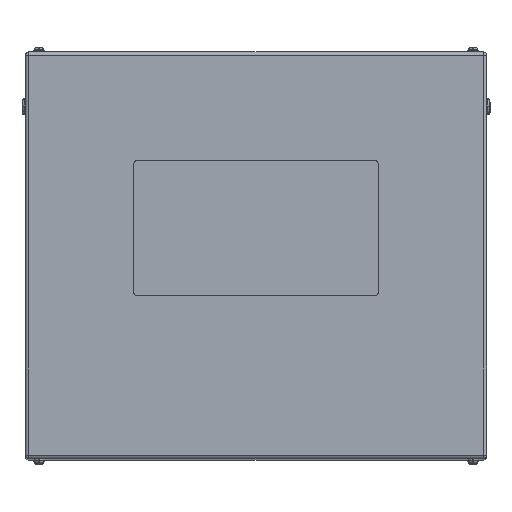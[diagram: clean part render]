
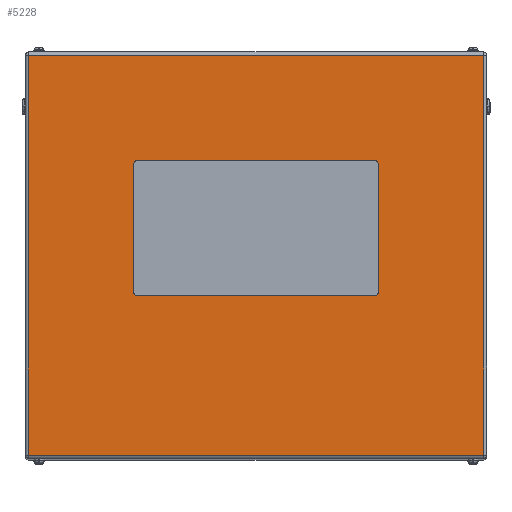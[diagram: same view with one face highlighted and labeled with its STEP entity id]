
A CAD part, top view. The second image highlights one B-rep face of the part: STEP entity #5228.
In plain terms, the highlighted planar face has unit normal (0, 0, 1).
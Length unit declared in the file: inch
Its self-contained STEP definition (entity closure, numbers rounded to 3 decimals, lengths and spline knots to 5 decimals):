
#295 = CARTESIAN_POINT ( 'NONE',  ( -16.8, 15., 30. ) ) ;
#328 = VERTEX_POINT ( 'NONE', #15952 ) ;
#602 = ORIENTED_EDGE ( 'NONE', *, *, #14239, .T. ) ;
#777 = VECTOR ( 'NONE', #4884, 39.37008 ) ;
#784 = CARTESIAN_POINT ( 'NONE',  ( -9., -2.75, 30. ) ) ;
#1256 = CARTESIAN_POINT ( 'NONE',  ( 8.75, -2.75, 30. ) ) ;
#1282 = CARTESIAN_POINT ( 'NONE',  ( 16.8, 14.734, 30. ) ) ;
#1363 = VECTOR ( 'NONE', #8467, 39.37008 ) ;
#1404 = VERTEX_POINT ( 'NONE', #11479 ) ;
#1414 = CARTESIAN_POINT ( 'NONE',  ( 17., 14.734, 30. ) ) ;
#1515 = DIRECTION ( 'NONE',  ( -1., 0., 0. ) ) ;
#1995 = EDGE_CURVE ( 'NONE', #15979, #4943, #15452, .T. ) ;
#2005 = DIRECTION ( 'NONE',  ( 0., -1., 0. ) ) ;
#2015 = LINE ( 'NONE', #17191, #1363 ) ;
#2111 = LINE ( 'NONE', #295, #6206 ) ;
#2765 = LINE ( 'NONE', #13784, #11850 ) ;
#2818 = CARTESIAN_POINT ( 'NONE',  ( -8.75, 6.75, 30. ) ) ;
#2873 = VERTEX_POINT ( 'NONE', #12969 ) ;
#3193 = CIRCLE ( 'NONE', #20078, 0.25 ) ;
#3551 = CARTESIAN_POINT ( 'NONE',  ( -8.75, -3., 30. ) ) ;
#4075 = CARTESIAN_POINT ( 'NONE',  ( 16.8, -14.734, 30. ) ) ;
#4129 = CIRCLE ( 'NONE', #18274, 0.25 ) ;
#4137 = CARTESIAN_POINT ( 'NONE',  ( -9., 6.75, 30. ) ) ;
#4253 = DIRECTION ( 'NONE',  ( 0., 0., 1. ) ) ;
#4749 = DIRECTION ( 'NONE',  ( 0., 0., 1. ) ) ;
#4884 = DIRECTION ( 'NONE',  ( 0., 1., 0. ) ) ;
#4943 = VERTEX_POINT ( 'NONE', #784 ) ;
#5041 = VERTEX_POINT ( 'NONE', #4075 ) ;
#5059 = VECTOR ( 'NONE', #7377, 39.37008 ) ;
#5228 = ADVANCED_FACE ( 'NONE', ( #10412, #18319 ), #8477, .F. ) ;
#5963 = CIRCLE ( 'NONE', #19064, 0.25 ) ;
#6206 = VECTOR ( 'NONE', #2005, 39.37008 ) ;
#6305 = DIRECTION ( 'NONE',  ( 1., 0., 0. ) ) ;
#6409 = CARTESIAN_POINT ( 'NONE',  ( 16.8, -14.734, 30. ) ) ;
#6540 = VECTOR ( 'NONE', #6305, 39.37008 ) ;
#6654 = EDGE_LOOP ( 'NONE', ( #602, #16974, #18216, #17483 ) ) ;
#6821 = ORIENTED_EDGE ( 'NONE', *, *, #8346, .F. ) ;
#6964 = ORIENTED_EDGE ( 'NONE', *, *, #1995, .F. ) ;
#6986 = DIRECTION ( 'NONE',  ( -1., 0., 0. ) ) ;
#7266 = CARTESIAN_POINT ( 'NONE',  ( -9., 6.75, 30. ) ) ;
#7377 = DIRECTION ( 'NONE',  ( 0., -1., 0. ) ) ;
#7404 = DIRECTION ( 'NONE',  ( 0., 0., 1. ) ) ;
#7588 = EDGE_CURVE ( 'NONE', #20206, #2873, #9361, .T. ) ;
#8122 = LINE ( 'NONE', #6409, #6540 ) ;
#8346 = EDGE_CURVE ( 'NONE', #4943, #18430, #3193, .T. ) ;
#8402 = EDGE_CURVE ( 'NONE', #14387, #15979, #5963, .T. ) ;
#8467 = DIRECTION ( 'NONE',  ( 1., 0., 0. ) ) ;
#8477 = PLANE ( 'NONE',  #13180 ) ;
#8694 = EDGE_CURVE ( 'NONE', #1404, #20537, #20792, .T. ) ;
#9361 = LINE ( 'NONE', #1414, #11058 ) ;
#9488 = DIRECTION ( 'NONE',  ( 1., 0., 0. ) ) ;
#9511 = LINE ( 'NONE', #14810, #777 ) ;
#9590 = DIRECTION ( 'NONE',  ( 0., 0., 1. ) ) ;
#9879 = EDGE_CURVE ( 'NONE', #328, #5041, #8122, .T. ) ;
#10202 = CARTESIAN_POINT ( 'NONE',  ( 9., 6.75, 30. ) ) ;
#10412 = FACE_BOUND ( 'NONE', #10617, .T. ) ;
#10617 = EDGE_LOOP ( 'NONE', ( #20231, #6821, #6964, #11712, #17436, #14222, #17018, #18838 ) ) ;
#10740 = DIRECTION ( 'NONE',  ( 0., 1., 0. ) ) ;
#10994 = CARTESIAN_POINT ( 'NONE',  ( 8.75, 7., 30. ) ) ;
#11058 = VECTOR ( 'NONE', #15951, 39.37008 ) ;
#11479 = CARTESIAN_POINT ( 'NONE',  ( 8.75, -3., 30. ) ) ;
#11500 = CARTESIAN_POINT ( 'NONE',  ( -8.75, 7., 30. ) ) ;
#11712 = ORIENTED_EDGE ( 'NONE', *, *, #8402, .F. ) ;
#11829 = DIRECTION ( 'NONE',  ( 0., 0., -1. ) ) ;
#11850 = VECTOR ( 'NONE', #10740, 39.37008 ) ;
#11921 = CARTESIAN_POINT ( 'NONE',  ( 9., -2.75, 30. ) ) ;
#12329 = EDGE_CURVE ( 'NONE', #14433, #12476, #4129, .T. ) ;
#12449 = DIRECTION ( 'NONE',  ( 1., 0., 0. ) ) ;
#12476 = VERTEX_POINT ( 'NONE', #10994 ) ;
#12969 = CARTESIAN_POINT ( 'NONE',  ( -16.8, 14.734, 30. ) ) ;
#13026 = LINE ( 'NONE', #19421, #13491 ) ;
#13180 = AXIS2_PLACEMENT_3D ( 'NONE', #15074, #11829, #6986 ) ;
#13207 = AXIS2_PLACEMENT_3D ( 'NONE', #1256, #4253, #12449 ) ;
#13491 = VECTOR ( 'NONE', #1515, 39.37008 ) ;
#13784 = CARTESIAN_POINT ( 'NONE',  ( 16.8, 15., 30. ) ) ;
#14222 = ORIENTED_EDGE ( 'NONE', *, *, #12329, .F. ) ;
#14239 = EDGE_CURVE ( 'NONE', #2873, #328, #2111, .T. ) ;
#14387 = VERTEX_POINT ( 'NONE', #11500 ) ;
#14433 = VERTEX_POINT ( 'NONE', #10202 ) ;
#14810 = CARTESIAN_POINT ( 'NONE',  ( 9., 6.75, 30. ) ) ;
#14880 = EDGE_CURVE ( 'NONE', #20537, #14433, #9511, .T. ) ;
#15074 = CARTESIAN_POINT ( 'NONE',  ( 17., 15., 30. ) ) ;
#15452 = LINE ( 'NONE', #7266, #5059 ) ;
#15951 = DIRECTION ( 'NONE',  ( -1., 0., 0. ) ) ;
#15952 = CARTESIAN_POINT ( 'NONE',  ( -16.8, -14.734, 30. ) ) ;
#15977 = CARTESIAN_POINT ( 'NONE',  ( -8.75, -2.75, 30. ) ) ;
#15979 = VERTEX_POINT ( 'NONE', #4137 ) ;
#16176 = DIRECTION ( 'NONE',  ( 1., 0., 0. ) ) ;
#16744 = EDGE_CURVE ( 'NONE', #5041, #20206, #2765, .T. ) ;
#16974 = ORIENTED_EDGE ( 'NONE', *, *, #9879, .T. ) ;
#17018 = ORIENTED_EDGE ( 'NONE', *, *, #14880, .F. ) ;
#17191 = CARTESIAN_POINT ( 'NONE',  ( -8.75, -3., 30. ) ) ;
#17436 = ORIENTED_EDGE ( 'NONE', *, *, #18020, .F. ) ;
#17483 = ORIENTED_EDGE ( 'NONE', *, *, #7588, .T. ) ;
#18020 = EDGE_CURVE ( 'NONE', #12476, #14387, #13026, .T. ) ;
#18216 = ORIENTED_EDGE ( 'NONE', *, *, #16744, .T. ) ;
#18274 = AXIS2_PLACEMENT_3D ( 'NONE', #20786, #7404, #20889 ) ;
#18319 = FACE_OUTER_BOUND ( 'NONE', #6654, .T. ) ;
#18430 = VERTEX_POINT ( 'NONE', #3551 ) ;
#18838 = ORIENTED_EDGE ( 'NONE', *, *, #8694, .F. ) ;
#19064 = AXIS2_PLACEMENT_3D ( 'NONE', #2818, #4749, #9488 ) ;
#19421 = CARTESIAN_POINT ( 'NONE',  ( -8.75, 7., 30. ) ) ;
#20078 = AXIS2_PLACEMENT_3D ( 'NONE', #15977, #9590, #16176 ) ;
#20206 = VERTEX_POINT ( 'NONE', #1282 ) ;
#20231 = ORIENTED_EDGE ( 'NONE', *, *, #20587, .F. ) ;
#20537 = VERTEX_POINT ( 'NONE', #11921 ) ;
#20587 = EDGE_CURVE ( 'NONE', #18430, #1404, #2015, .T. ) ;
#20786 = CARTESIAN_POINT ( 'NONE',  ( 8.75, 6.75, 30. ) ) ;
#20792 = CIRCLE ( 'NONE', #13207, 0.25 ) ;
#20889 = DIRECTION ( 'NONE',  ( -1., 0., 0. ) ) ;
